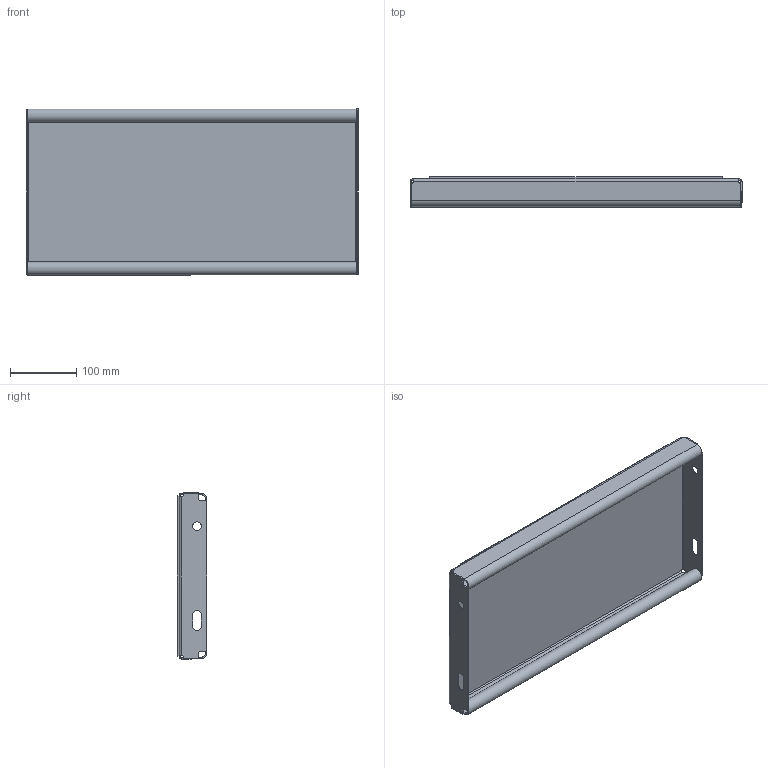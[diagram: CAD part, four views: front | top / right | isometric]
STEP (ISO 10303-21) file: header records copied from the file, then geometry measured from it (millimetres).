
FILE_DESCRIPTION (( 'STEP AP214' ), '1' );
FILE_NAME ('OPTIMO-Tread-Achil-O2-500x250x45x2-st240-F100310100_plain.STEP', '2021-03-16T13:57:01', ( '' ), ( '' ), 'SwSTEP 2.0', 'SolidWorks 2021', '' );
FILE_SCHEMA (( 'AUTOMOTIVE_DESIGN' ));
Length unit declared in the file: millimetre
Products named in the file (1): OPTIMO-Tread-Achil-O2-500x250x45x2-st240-F100310100_plain
Bounding box: 500 x 45 x 250 mm (x, y, z)
Volume: 758078.4 mm3; surface area: 447380.1 mm2
Topology: 1 solids, 1 shells, 248 faces, 640 edges, 412 vertices
Faces by surface type: plane 173, bspline 39, cylinder 36
Entity records: 9924 total; most frequent: CARTESIAN_POINT 4092, ORIENTED_EDGE 1280, DIRECTION 1022, EDGE_CURVE 640, LINE 490, VECTOR 490, VERTEX_POINT 412, EDGE_LOOP 274
